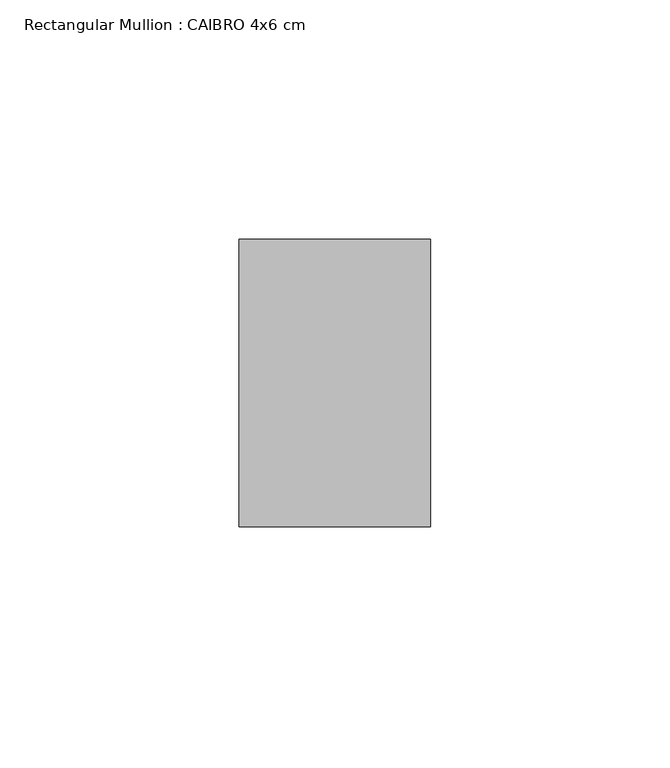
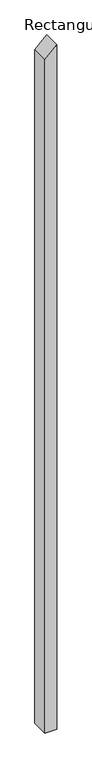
"""IFC4 building model written with IfcOpenShell, lengths in millimetres: member geometry, Rectangular Mullion : CAIBRO 4x6 cm."""

from ifc_helpers import new_model, si_unit, frame, origin, place, context, project, spatial, polyline, outline, extrude, source, transform, mapped, element, save


def rectangular_mullion_caibro_4x6_cm_86bc2fbb(model_context):
    return source(origin(), model_context, "Body", "SweptSolid", [
        extrude(outline(polyline([(-36.6621022, 20.0), (-77.109599, -20.0), (-2523.9710294, -20.0), (-2523.9710294, 20.0), (-36.6621022, 20.0)])), frame((0.0, 0.0, 0.0), z_axis=(0.0, 1.0, 0.0), x_axis=(0.0, 0.0, 1.0)), (0.0, 0.0, 1.0), 60.0),
    ])


if __name__ == "__main__":
    model = new_model("IFC4")
    model_context = context("Model", 3, world=origin())
    ifc_project = project(units=[si_unit("LENGTHUNIT", "METRE", prefix="MILLI")], contexts=[model_context])
    site = spatial("IfcSite", under=ifc_project)
    building = spatial("IfcBuilding", under=site)
    placement = place(None, origin())
    rectangular_mullion_caibro_4x6_cm_shape = rectangular_mullion_caibro_4x6_cm_86bc2fbb(model_context)
    element("IfcMember", 1, ObjectType="Rectangular Mullion : CAIBRO 4x6 cm", at=placement, inside=building, context=model_context, shape_type="MappedRepresentation", body=[
        mapped(rectangular_mullion_caibro_4x6_cm_shape, transform((0.0, 0.0, 0.0), x_axis=(1.0, 0.0, 0.0), y_axis=(0.0, 1.0, 0.0), z_axis=(0.0, 0.0, 1.0))),
    ])
    save(model, "model.ifc")
